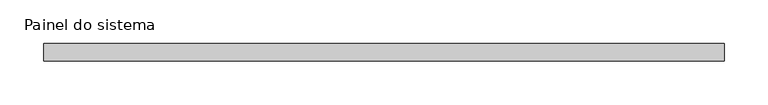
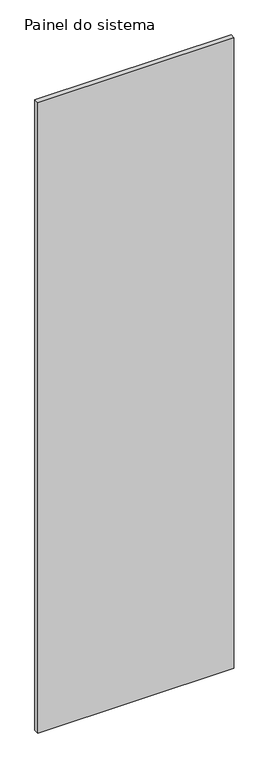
"""IFC4 building model written with IfcOpenShell, lengths in millimetres: plate geometry, Painel do sistema : Envidraçado."""

import ifcopenshell
import ifcopenshell.guid

model = None  # the IFC model being written
_history = None  # IfcOwnerHistory: only IFC2X3 demands one
_inside = {}  # id of a spatial element -> (the spatial element, [elements in it])
_under = {}  # id of a project, library or spatial element -> (it, [spatial elements below it])
_declared = {}  # id of a project -> (the project, [libraries it declares])
_typed = {}  # id of a type object -> (the type object, [elements of that type])
_made_of = {}  # id of a material, layer set ... -> (it, [elements and type objects made of it])


def new_model(schema):
    """Start an empty IFC model of exactly this schema.

    Asked for "IFC4X3", IfcOpenShell would pick the latest addendum, in which some entities
    have other attributes; the version numbers below select the first issue.
    IFC2X3 requires an IfcOwnerHistory on every rooted entity: one is made here for all.
    """
    global model, _history
    if schema == "IFC4X3":
        model = ifcopenshell.file(schema_version=(4, 3, 0, 0))
    else:
        model = ifcopenshell.file(schema=schema)
    _inside.clear()
    _under.clear()
    _declared.clear()
    _typed.clear()
    _made_of.clear()
    _history = None
    if model.schema == "IFC2X3":
        org = make("IfcOrganization", Name="unknown")
        user = make(
            "IfcPersonAndOrganization",
            ThePerson=make("IfcPerson", FamilyName="unknown"),
            TheOrganization=org,
        )
        app = make(
            "IfcApplication",
            ApplicationDeveloper=org,
            Version="unknown",
            ApplicationFullName="unknown",
            ApplicationIdentifier="unknown",
        )
        _history = make(
            "IfcOwnerHistory",
            OwningUser=user,
            OwningApplication=app,
            ChangeAction="ADDED",
            CreationDate=0,
        )
    return model


def make(cls, **values):
    """One entity of the class cls with the attributes given. An attribute that is None is left unset."""
    return model.create_entity(
        cls, **{name: value for name, value in values.items() if value is not None}
    )


def rooted(cls, **values):
    """An entity with a GlobalId (a new one), such as an element, a storey or a relation."""
    return make(cls, GlobalId=ifcopenshell.guid.new(), OwnerHistory=_history, **values)


def si_unit(unit_type, name, prefix=None):
    """IfcSIUnit, for example si_unit("LENGTHUNIT", "METRE", prefix="MILLI")."""
    return make("IfcSIUnit", UnitType=unit_type, Prefix=prefix, Name=name)


def assignment(units):
    """IfcUnitAssignment: the units of a project."""
    return None if units is None else make("IfcUnitAssignment", Units=units)


def point(xyz):
    """IfcCartesianPoint."""
    return None if xyz is None else make("IfcCartesianPoint", Coordinates=xyz)


def direction(xyz):
    """IfcDirection."""
    return None if xyz is None else make("IfcDirection", DirectionRatios=xyz)


def frame(location, z_axis=None, x_axis=None):
    """IfcAxis2Placement3D, a coordinate frame: its origin and axes. An axis left out is left unset."""
    return make(
        "IfcAxis2Placement3D",
        Location=point(location),
        Axis=direction(z_axis),
        RefDirection=direction(x_axis),
    )


def origin():
    """The frame at (0, 0, 0) with its axes left unset."""
    return frame((0.0, 0.0, 0.0))


def origin_with_axes():
    """The frame at (0, 0, 0) with the z axis (0, 0, 1) and the x axis (1, 0, 0) written out."""
    return frame((0.0, 0.0, 0.0), z_axis=(0.0, 0.0, 1.0), x_axis=(1.0, 0.0, 0.0))


def place(relative_to, where):
    """IfcLocalPlacement: puts the frame where relative to a parent placement (None: the world)."""
    return make(
        "IfcLocalPlacement", PlacementRelTo=relative_to, RelativePlacement=where
    )


def context(
    kind, dimensions, precision=None, world=None, true_north=None, identifier=None
):
    """IfcGeometricRepresentationContext, for example the 3D "Model" context."""
    return make(
        "IfcGeometricRepresentationContext",
        ContextIdentifier=identifier,
        ContextType=kind,
        CoordinateSpaceDimension=dimensions,
        Precision=precision,
        WorldCoordinateSystem=world,
        TrueNorth=true_north,
    )


def project(units=None, contexts=None):
    """IfcProject with its units and contexts."""
    return rooted(
        "IfcProject",
        Name="project",
        RepresentationContexts=contexts,
        UnitsInContext=assignment(units),
    )


def spatial(cls, under=None, at=None, **own):
    """A site, building, storey or space (cls), placed at a placement, below another one or the project."""
    s = rooted(cls, ObjectPlacement=at, **own)
    if under is not None:
        _under.setdefault(under.id(), (under, []))[1].append(s)
    return s


def polyline(points):
    """IfcPolyline through the points."""
    return make("IfcPolyline", Points=[point(p) for p in points])


def outline(outer, holes=None, kind="AREA"):
    """IfcArbitraryClosedProfileDef: a profile drawn as a closed curve; with holes, ...WithVoids."""
    if holes is None:
        return make("IfcArbitraryClosedProfileDef", ProfileType=kind, OuterCurve=outer)
    return make(
        "IfcArbitraryProfileDefWithVoids",
        ProfileType=kind,
        OuterCurve=outer,
        InnerCurves=holes,
    )


def extrude(swept, where, along, depth):
    """IfcExtrudedAreaSolid: the profile swept, set in the frame where, extruded along a direction by depth."""
    return make(
        "IfcExtrudedAreaSolid",
        SweptArea=swept,
        Position=where,
        ExtrudedDirection=direction(along),
        Depth=depth,
    )


def shape(context_of_items, identifier, shape_type, items):
    """IfcShapeRepresentation: the items that make up one representation, for example the "Body"."""
    return make(
        "IfcShapeRepresentation",
        ContextOfItems=context_of_items,
        RepresentationIdentifier=identifier,
        RepresentationType=shape_type,
        Items=items,
    )


def source(mapping_origin, context_of_items, identifier, shape_type, items):
    """IfcRepresentationMap: a shape defined once, which mapped items show again and again."""
    return make(
        "IfcRepresentationMap",
        MappingOrigin=mapping_origin,
        MappedRepresentation=shape(context_of_items, identifier, shape_type, items),
    )


def transform(
    local_origin,
    x_axis=None,
    y_axis=None,
    z_axis=None,
    scale=None,
    scale2=None,
    scale3=None,
    uniform=True,
):
    """IfcCartesianTransformationOperator3D, or its non-uniform kind. x_axis, y_axis, z_axis: its Axis1, 2, 3."""
    if uniform:
        return make(
            "IfcCartesianTransformationOperator3D",
            Axis1=direction(x_axis),
            Axis2=direction(y_axis),
            LocalOrigin=point(local_origin),
            Scale=scale,
            Axis3=direction(z_axis),
        )
    return make(
        "IfcCartesianTransformationOperator3DnonUniform",
        Axis1=direction(x_axis),
        Axis2=direction(y_axis),
        LocalOrigin=point(local_origin),
        Scale=scale,
        Axis3=direction(z_axis),
        Scale2=scale2,
        Scale3=scale3,
    )


def mapped(mapping_source, mapping_target):
    """IfcMappedItem: shows the shape of a source again, moved by a transform."""
    return make(
        "IfcMappedItem", MappingSource=mapping_source, MappingTarget=mapping_target
    )


def made_of(thing, what):
    """Note that an element or type object is made of a material, layer set ...; save() writes the relation."""
    if what is not None:
        _made_of.setdefault(what.id(), (what, []))[1].append(thing)
    return thing


def element(
    cls,
    number,
    at=None,
    inside=None,
    cuts=None,
    type_object=None,
    material=None,
    context=None,
    identifier="Body",
    shape_type=None,
    held_by="IfcProductDefinitionShape",
    body=None,
    shapes=None,
    **own,
):
    """One element of the class cls, such as IfcWall. Its Tag is "e" and its number.

    at: its placement. inside: the storey or other place that contains it. cuts: it is an
    opening in that element (IfcRelVoidsElement). A single representation is given by context,
    identifier, shape_type and body (its items); several are given by shapes. held_by: the class
    of the entity that holds the representations. save() writes the other relations.
    """
    e = rooted(cls, Tag="e%d" % number, ObjectPlacement=at, **own)
    if body is not None:
        shapes = [shape(context, identifier, shape_type, body)]
    if shapes is not None:
        e.Representation = make(held_by, Representations=shapes)
    if inside is not None:
        _inside.setdefault(inside.id(), (inside, []))[1].append(e)
    if cuts is not None:
        rooted(
            "IfcRelVoidsElement", RelatingBuildingElement=cuts, RelatedOpeningElement=e
        )
    if type_object is not None:
        _typed.setdefault(type_object.id(), (type_object, []))[1].append(e)
    return made_of(e, material)


def aggregate(whole, parts):
    """IfcRelAggregates: a whole, such as a stair, and the parts it consists of."""
    return rooted("IfcRelAggregates", RelatingObject=whole, RelatedObjects=parts)


def save(model, path):
    """Write the relations noted so far, then the file.

    IfcRelAggregates (storeys below a building ...), IfcRelContainedInSpatialStructure (elements
    in a storey), IfcRelDefinesByType, IfcRelAssociatesMaterial and IfcRelDeclares: one each for
    every whole, place, type object, material and project.
    """
    for whole, parts in _under.values():
        aggregate(whole, parts)
    for where, things in _inside.values():
        rooted(
            "IfcRelContainedInSpatialStructure",
            RelatedElements=things,
            RelatingStructure=where,
        )
    for kind, things in _typed.values():
        rooted("IfcRelDefinesByType", RelatedObjects=things, RelatingType=kind)
    for what, things in _made_of.values():
        rooted("IfcRelAssociatesMaterial", RelatedObjects=things, RelatingMaterial=what)
    for by, libraries in _declared.values():
        rooted("IfcRelDeclares", RelatingContext=by, RelatedDefinitions=libraries)
    model.write(path)


def painel_do_sistema_b03fa703(model_context):
    return source(origin(), model_context, "Body", "SweptSolid", [
        extrude(outline(polyline([(388.5383598, -10.0), (-388.5383598, -10.0), (-388.5383598, 10.0), (388.5383598, 10.0), (388.5383598, -10.0)])), origin_with_axes(), (0.0, 0.0, 1.0), 2640.0),
    ])


if __name__ == "__main__":
    model = new_model("IFC4")
    model_context = context("Model", 3, world=origin())
    ifc_project = project(units=[si_unit("LENGTHUNIT", "METRE", prefix="MILLI")], contexts=[model_context])
    site = spatial("IfcSite", under=ifc_project)
    building = spatial("IfcBuilding", under=site)
    placement = place(None, origin())
    painel_do_sistema_shape = painel_do_sistema_b03fa703(model_context)
    element("IfcPlate", 1, ObjectType="Painel do sistema : Envidraçado", at=placement, inside=building, context=model_context, shape_type="MappedRepresentation", body=[
        mapped(painel_do_sistema_shape, transform((0.0, 0.0, 0.0), x_axis=(1.0, 0.0, 0.0), y_axis=(0.0, 1.0, 0.0), z_axis=(0.0, 0.0, 1.0))),
    ])
    save(model, "model.ifc")
